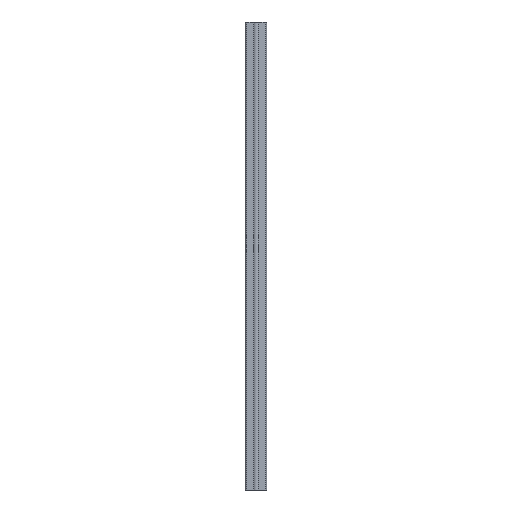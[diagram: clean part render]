
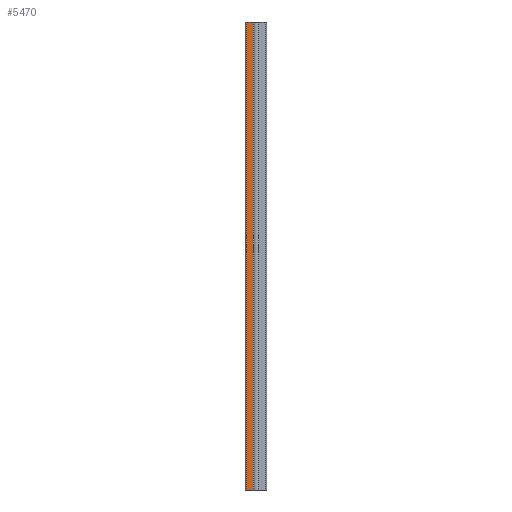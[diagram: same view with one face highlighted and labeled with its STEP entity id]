
A CAD part, front view. The second image highlights one B-rep face of the part: STEP entity #5470.
In plain terms, the highlighted planar face has unit normal (0, -1, 0).
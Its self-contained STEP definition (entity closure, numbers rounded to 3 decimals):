
#230 = DIRECTION ( 'NONE',  ( 0., 1., 0. ) ) ;
#249 = DIRECTION ( 'NONE',  ( 1., 0., 0. ) ) ;
#530 = CARTESIAN_POINT ( 'NONE',  ( -6., -22.5, -500. ) ) ;
#553 = VECTOR ( 'NONE', #249, 1000. ) ;
#591 = EDGE_CURVE ( 'NONE', #3364, #635, #804, .T. ) ;
#635 = VERTEX_POINT ( 'NONE', #4204 ) ;
#774 = FACE_OUTER_BOUND ( 'NONE', #5100, .T. ) ;
#804 = LINE ( 'NONE', #3029, #2547 ) ;
#1035 = EDGE_CURVE ( 'NONE', #3673, #1192, #3019, .T. ) ;
#1192 = VERTEX_POINT ( 'NONE', #7204 ) ;
#1459 = CARTESIAN_POINT ( 'NONE',  ( -19.5, -22.5, 500. ) ) ;
#1633 = VECTOR ( 'NONE', #6332, 1000. ) ;
#1870 = LINE ( 'NONE', #4100, #1633 ) ;
#2451 = DIRECTION ( 'NONE',  ( 0., 0., 1. ) ) ;
#2547 = VECTOR ( 'NONE', #5256, 1000. ) ;
#2574 = AXIS2_PLACEMENT_3D ( 'NONE', #5228, #230, #2451 ) ;
#2754 = DIRECTION ( 'NONE',  ( 0., 0., 1. ) ) ;
#2796 = VECTOR ( 'NONE', #2754, 1000. ) ;
#3000 = PLANE ( 'NONE',  #2574 ) ;
#3019 = LINE ( 'NONE', #5247, #553 ) ;
#3029 = CARTESIAN_POINT ( 'NONE',  ( -22.5, -22.5, 500. ) ) ;
#3302 = ORIENTED_EDGE ( 'NONE', *, *, #4699, .T. ) ;
#3364 = VERTEX_POINT ( 'NONE', #1459 ) ;
#3673 = VERTEX_POINT ( 'NONE', #5644 ) ;
#4100 = CARTESIAN_POINT ( 'NONE',  ( -19.5, -22.5, 500. ) ) ;
#4204 = CARTESIAN_POINT ( 'NONE',  ( -6., -22.5, 500. ) ) ;
#4675 = ORIENTED_EDGE ( 'NONE', *, *, #1035, .T. ) ;
#4699 = EDGE_CURVE ( 'NONE', #1192, #635, #5534, .T. ) ;
#4831 = ORIENTED_EDGE ( 'NONE', *, *, #5449, .T. ) ;
#5100 = EDGE_LOOP ( 'NONE', ( #4675, #3302, #6198, #4831 ) ) ;
#5228 = CARTESIAN_POINT ( 'NONE',  ( -22.5, -22.5, 500. ) ) ;
#5247 = CARTESIAN_POINT ( 'NONE',  ( -22.5, -22.5, -500. ) ) ;
#5256 = DIRECTION ( 'NONE',  ( 1., 0., 0. ) ) ;
#5449 = EDGE_CURVE ( 'NONE', #3364, #3673, #1870, .T. ) ;
#5470 = ADVANCED_FACE ( 'NONE', ( #774 ), #3000, .F. ) ;
#5534 = LINE ( 'NONE', #530, #2796 ) ;
#5644 = CARTESIAN_POINT ( 'NONE',  ( -19.5, -22.5, -500. ) ) ;
#6198 = ORIENTED_EDGE ( 'NONE', *, *, #591, .F. ) ;
#6332 = DIRECTION ( 'NONE',  ( 0., 0., -1. ) ) ;
#7204 = CARTESIAN_POINT ( 'NONE',  ( -6., -22.5, -500. ) ) ;
